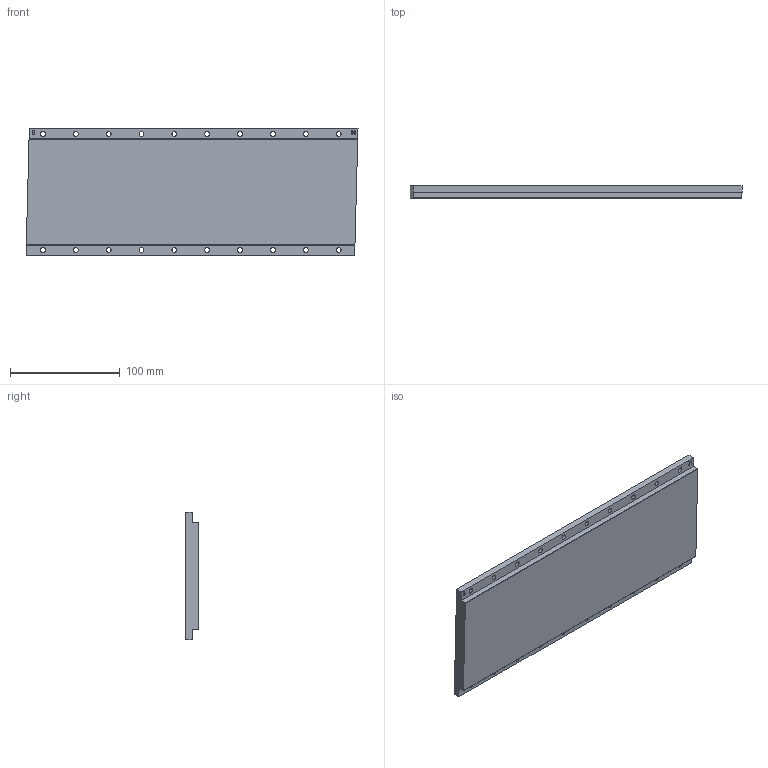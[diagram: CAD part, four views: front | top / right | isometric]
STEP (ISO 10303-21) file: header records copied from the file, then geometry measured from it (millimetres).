
FILE_DESCRIPTION( ( 'Unknown' ), '1' );
FILE_NAME( 'C:/Users/gyt/Desktop/电机制造图/DPD/DPD修改/官网3D/DPD116M300.stp', 'Unknown', ( 'Unknown' ), ( 'Unknown' ), 'PSStep 17.0.49', 'Unknown', ' ' );
FILE_SCHEMA( ( 'AUTOMOTIVE_DESIGN { 1 0 10303 214 1 1 1 1 }' ) );
Length unit declared in the file: millimetre
Products named in the file (1): 1
Bounding box: 303.03 x 11.6 x 116 mm (x, y, z)
Volume: 369829.3 mm3; surface area: 80000 mm2
Topology: 1 solids, 1 shells, 50 faces, 138 edges, 92 vertices
Faces by surface type: plane 22, cylinder 22, extrusion 6
Full cylindrical faces by diameter (mm): 4.5 x20
Entity records: 2235 total; most frequent: CARTESIAN_POINT 558, ORIENTED_EDGE 236, DIRECTION 226, EDGE_CURVE 118, EDGE_LOOP 112, VERTEX_POINT 92, AXIS2_PLACEMENT_3D 89, FACE_OUTER_BOUND 70
